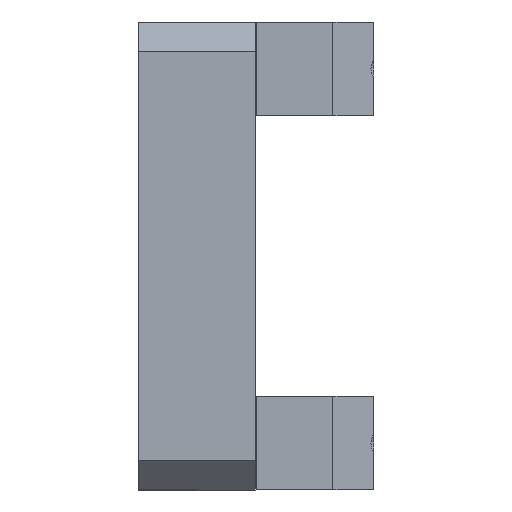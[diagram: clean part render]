
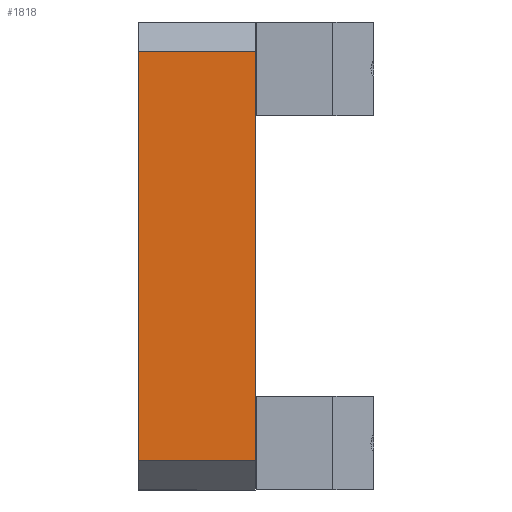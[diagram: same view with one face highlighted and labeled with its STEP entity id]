
A CAD part, left-side view. The second image highlights one B-rep face of the part: STEP entity #1818.
In plain terms, the highlighted planar face has unit normal (-1, 0, 0).
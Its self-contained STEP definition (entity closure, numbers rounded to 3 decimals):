
#135 = FACE_OUTER_BOUND ( 'NONE', #1508, .T. ) ;
#297 = CARTESIAN_POINT ( 'NONE',  ( 0., 20., 35. ) ) ;
#305 = DIRECTION ( 'NONE',  ( 0., -1., 0. ) ) ;
#307 = DIRECTION ( 'NONE',  ( 0., 0., 1. ) ) ;
#309 = CARTESIAN_POINT ( 'NONE',  ( 0., 20., -35. ) ) ;
#310 = CARTESIAN_POINT ( 'NONE',  ( 0., 0., 0. ) ) ;
#314 = DIRECTION ( 'NONE',  ( 0., -1., 0. ) ) ;
#316 = DIRECTION ( 'NONE',  ( 0., 0., 1. ) ) ;
#319 = CARTESIAN_POINT ( 'NONE',  ( 0., 20., 0. ) ) ;
#942 = VERTEX_POINT ( 'NONE', #1575 ) ;
#949 = VERTEX_POINT ( 'NONE', #1567 ) ;
#952 = VERTEX_POINT ( 'NONE', #1565 ) ;
#1417 = EDGE_CURVE ( 'NONE', #949, #942, #1864, .T. ) ;
#1420 = EDGE_CURVE ( 'NONE', #952, #942, #1871, .T. ) ;
#1421 = EDGE_CURVE ( 'NONE', #2800, #952, #1873, .T. ) ;
#1424 = EDGE_CURVE ( 'NONE', #2800, #949, #1878, .T. ) ;
#1508 = EDGE_LOOP ( 'NONE', ( #2421, #2422, #2419, #2420 ) ) ;
#1565 = CARTESIAN_POINT ( 'NONE',  ( 0., 0., -35. ) ) ;
#1567 = CARTESIAN_POINT ( 'NONE',  ( 0., 20., 35. ) ) ;
#1575 = CARTESIAN_POINT ( 'NONE',  ( 0., 0., 35. ) ) ;
#1709 = CARTESIAN_POINT ( 'NONE',  ( 0., 20., 0. ) ) ;
#1716 = PLANE ( 'NONE',  #2278 ) ;
#1718 = DIRECTION ( 'NONE',  ( 1., 0., 0. ) ) ;
#1719 = DIRECTION ( 'NONE',  ( 0., 0., -1. ) ) ;
#1818 = ADVANCED_FACE ( 'NONE', ( #135 ), #1716, .F. ) ;
#1864 = LINE ( 'NONE', #297, #1870 ) ;
#1870 = VECTOR ( 'NONE', #305, 1000. ) ;
#1871 = LINE ( 'NONE', #310, #1875 ) ;
#1873 = LINE ( 'NONE', #309, #1877 ) ;
#1875 = VECTOR ( 'NONE', #307, 1000. ) ;
#1877 = VECTOR ( 'NONE', #314, 1000. ) ;
#1878 = LINE ( 'NONE', #319, #1882 ) ;
#1882 = VECTOR ( 'NONE', #316, 1000. ) ;
#2278 = AXIS2_PLACEMENT_3D ( 'NONE', #1709, #1718, #1719 ) ;
#2419 = ORIENTED_EDGE ( 'NONE', *, *, #1420, .T. ) ;
#2420 = ORIENTED_EDGE ( 'NONE', *, *, #1417, .F. ) ;
#2421 = ORIENTED_EDGE ( 'NONE', *, *, #1424, .F. ) ;
#2422 = ORIENTED_EDGE ( 'NONE', *, *, #1421, .T. ) ;
#2664 = CARTESIAN_POINT ( 'NONE',  ( 0., 20., -35. ) ) ;
#2800 = VERTEX_POINT ( 'NONE', #2664 ) ;
